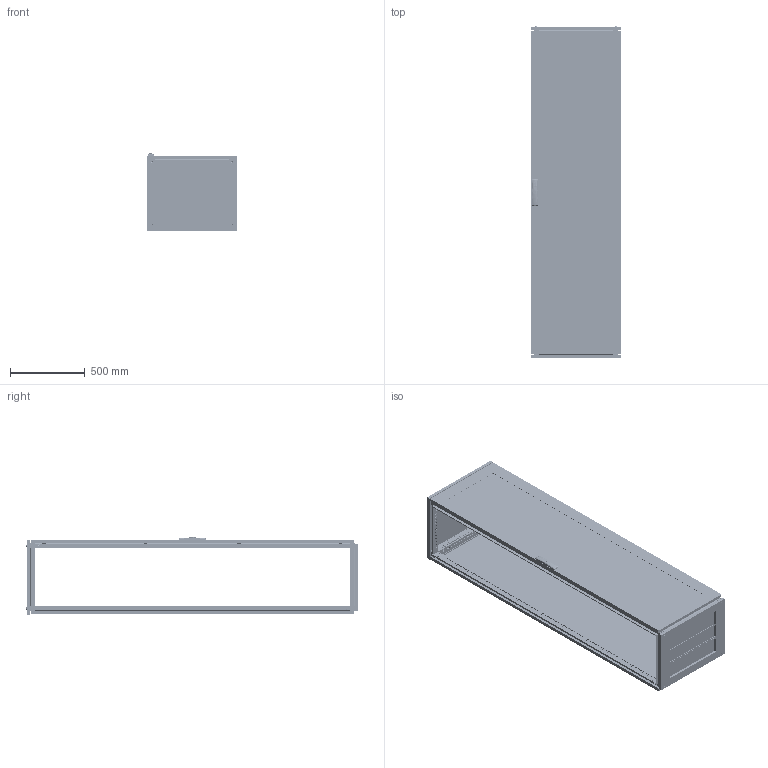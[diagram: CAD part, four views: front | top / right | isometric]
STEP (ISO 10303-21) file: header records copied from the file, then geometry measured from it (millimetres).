
FILE_DESCRIPTION (( 'STEP AP203' ), '1' );
FILE_NAME ('R5CQEN2265AX.STEP', '2025-05-07T12:14:25', ( '' ), ( '' ), 'SwSTEP 2.0', 'SolidWorks 2022', '' );
FILE_SCHEMA (( 'CONFIG_CONTROL_DESIGN' ));
Length unit declared in the file: millimetre
Products named in the file (65): RB.0562.01.00.0 СБ simple_-18; RB.1867.01.00.0 СБ simple_-55; RB.2680.00.02.0 simple; RB.0528.00.01.0 simple_-06; RB.2499.00.00.0 СБ simple_-13; M6x15 Erickson cl.4,8 Zinc; PF 7,5x15 CPE simple_2200x0600; 7 DIN 6799 Zinc simple; R5NCRE-Assem simple_R5NCRE2260; M6x10 DIN 7500 E HX cl.5.8 Zinc_straight; M12x16 ISO 7380-1 HX cl.4,8 Zinc_straight; TPA.08.0139.00.03.0; RB.1957.00.00.0 simple_-05; TPA.08.0083.00.00.0 simple; RB.2456.00.00.0 simple_-01; Pin 4x16 DIN 7 AISI 303 (A1) simple; RB.1633.00.02.0 simple_-01; RB.2457.00.00.0 СБ simple_-13; М6х12 A5100231_straight; M6x10 DIN 912 HX cl.8,8 Zinc_straight; R5NKTB - Assem simple_H=2200 R5NKTB65; RB.0562.00.00.0 СБ simple_-18; RB.2686.00.00.0 simple; RB.2499.01.00.0 СБ simple_-12; 4,0x16 F Torx Zinc (ART 88200)_thread; RB.2528.00.00.0 simple_-06; RB.2680.00.01.0 simple; Pressing stud FH-M6-12_M6x12mm; RB.2969.00.00.0 СБ simple; RB.2755.00.00.0 СБ simple_-13; R5NCPTE - Assem simple_R5NCPTE2260; 4.8x13 DIN 7981 PH Zinc_straight; Glass CPTE_2200x0600; Glue CPTE simple_2200x0600; RB.1633.00.01.0 simple_-02; RB.2696.00.00.0 simple; PF 7x14 CRE simple_2200x0600; RB.2052.01.00.0 СБ simple_-29; RB.2969.00.01.0 simple; R5NKMN - Assem simple_R5NKMN22 (600х500)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
Assembly tree (173 placements, depth 5):
  R5CQEN2265AX
    R5NCPTE - Assem simple_R5NCPTE2260
      RB.0562.00.00.0 СБ simple_-18
        RB.0562.01.00.0 СБ simple_-18
          RB.0562.01.01.0 simple_-18
          М6х12 A5100231_straight  x7
          RB.2702.00.00.0 simple  x4
          PF 7,5x15 CPE simple_2200x0600
          Glass CPTE_2200x0600
          Glue CPTE simple_2200x0600
        Square cap 20x20 simple  x2
        M6x15 Erickson cl.4,8 Zinc  x2
        RB.0528.00.01.0 simple_-06  x2
        ATOS Traction guide ILY03.35  x4
        RB.2357.00.00.0 simple_-03
        RB.2680.00.00.0 СБ simple
          TPA.08.0139.00.01.0 simple
          RB.2680.00.01.0 simple
          RB.2680.00.02.0 simple  x2
        TPA.08.0139.00.03.0  x2
        M6 DIN 985 cl.6,0 Zinc_straight  x4
        4,0x16 F Torx Zinc (ART 88200)_thread  x2
        RB.0528.04.00.0 СБ simple  x2
          RB.0528.04.01.0 simple
          Pressing stud FH-M6-12_M6x12mm
      M6x10 DIN 912 HX cl.8,8 Zinc_straight  x8
      4.8x13 DIN 7981 PH Zinc_straight
      7 DIN 6799 Zinc simple  x4
      RB.2968.00.00.0 simple  x4
      RB.2969.00.00.0 СБ simple  x4
        RB.2969.00.01.0 simple
        Pin 4x16 DIN 7 AISI 303 (A1) simple
        M6 MGR-MKO-0625 simple_Thread
      AC00C446-R
      RB.2696.00.00.0 simple  x4
      7 DIN 6799 Zinc  x4
    R5NCRE-Assem simple_R5NCRE2260
      RB.2052.00.00.0 СБ simple_-29
        RB.2052.01.00.0 СБ simple_-29
          RB.0054.01.01.0 simple_-29
          М6х12 A5100231_straight  x4
        PF 7x14 CRE simple_2200x0600
      RB.2172.00.00.1 simple  x8
      M6x10 DIN 7500 E HX cl.5.8 Zinc_straight  x8
      M6x10 DIN 7500 M Torx cl.5.8 Zinc_straight  x8
    R5NKMN - Assem simple_R5NKMN22 (600х500)
      RB.2528.00.00.0 simple_-06  x4
    R5NKTB - Assem simple_H=2200 R5NKTB65
      RB.2499.00.00.0 СБ simple_-13
        RB.2499.01.00.0 СБ simple_-12
          RB.1633.00.01.0 simple_-02  x2
          RB.1633.00.02.0 simple_-01  x2
          PF 5x10 KTB simple_600х500
        RB.2457.00.00.0 СБ simple_-13
          RB.2455.00.00.0 simple_-02  x2
          RB.2456.00.00.0 simple_-01  x2
          TPA.08.0084.00.00.0 simple  x2
          TPA.08.0083.00.00.0 simple  x2
          M8x12 AC00C476 cl.8,8 Zinc_stright  x4
        RB.1957.00.00.0 simple_-05  x3
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Bounding box: 600 x 2213.3 x 514.79 mm (x, y, z)
Volume: 15537966.2 mm3; surface area: 13468337.9 mm2
Topology: 176 solids, 192 shells, 22733 faces, 64431 edges, 42467 vertices
Faces by surface type: plane 12763, cylinder 8429, cone 704, bspline 435, torus 368, sphere 34
Entity records: 225889 total; most frequent: CARTESIAN_POINT 55695, ORIENTED_EDGE 33770, DIRECTION 32187, EDGE_CURVE 16911, VERTEX_POINT 11202, AXIS2_PLACEMENT_3D 10781, LINE 10625, VECTOR 10625
